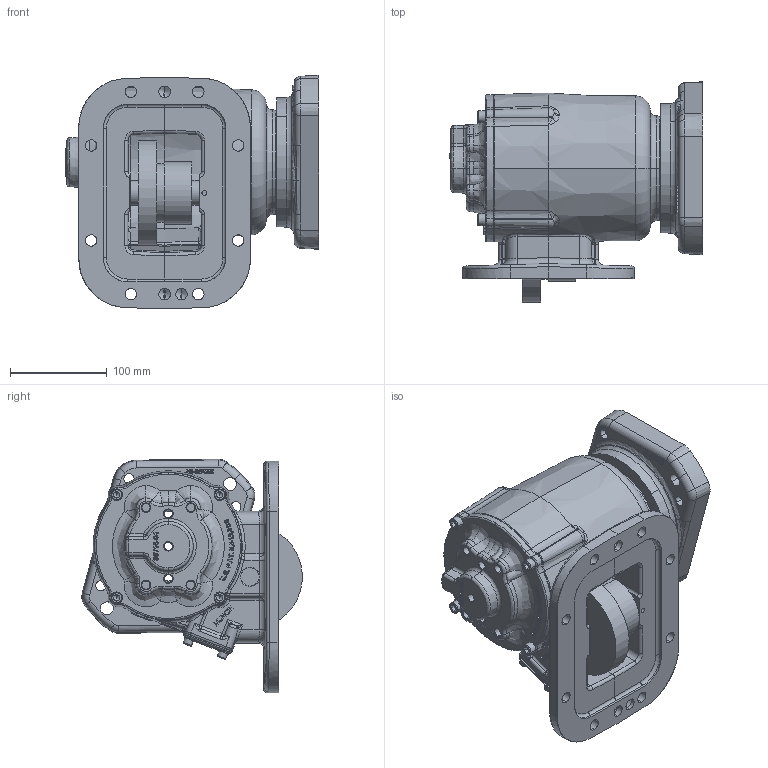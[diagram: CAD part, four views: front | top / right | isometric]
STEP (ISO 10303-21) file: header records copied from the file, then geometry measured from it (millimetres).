
FILE_DESCRIPTION (( 'STEP AP203' ), '1' );
FILE_NAME ('CS8S-XXXXX-X3EX.STEP', '2012-06-11T14:12:30', ( '' ), ( '' ), 'SwSTEP 2.0', 'SolidWorks 2012', '' );
FILE_SCHEMA (( 'CONFIG_CONTROL_DESIGN' ));
Products named in the file (3): CS8S-XXXXX-X3EX; 14T38719; CS8S-XXXXX-X3XX
Assembly tree (2 placements, depth 2):
  CS8S-XXXXX-X3EX
    CS8S-XXXXX-X3XX
    14T38719
Bounding box: 262.09 x 228.22 x 241.76 mm (x, y, z)
Volume: 2148173.8 mm3; surface area: 479612.3 mm2
Topology: 3 solids, 14 shells, 2076 faces, 5255 edges, 3254 vertices
Faces by surface type: bspline 820, plane 524, cylinder 430, cone 199, torus 95, sphere 8
Entity records: 105083 total; most frequent: CARTESIAN_POINT 60807, ORIENTED_EDGE 10368, DIRECTION 7128, EDGE_CURVE 5184, VERTEX_POINT 3254, AXIS2_PLACEMENT_3D 2552, EDGE_LOOP 2308, FACE_OUTER_BOUND 2076
